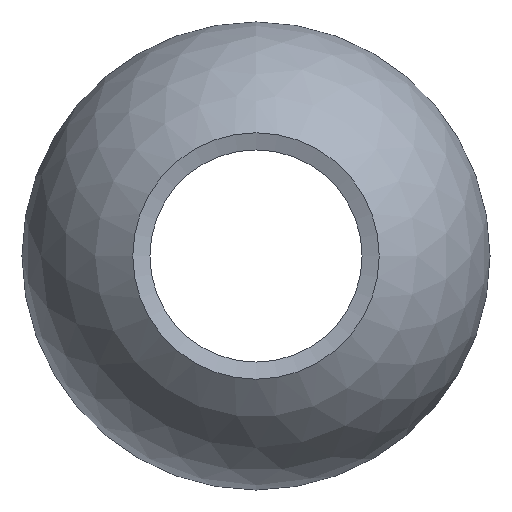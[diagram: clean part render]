
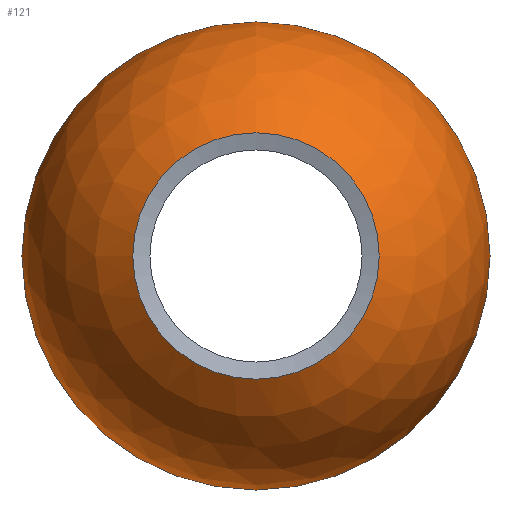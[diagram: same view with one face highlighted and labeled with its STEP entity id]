
A CAD part, front view. The second image highlights one B-rep face of the part: STEP entity #121.
In plain terms, the highlighted spherical face has radius 7.5 mm.
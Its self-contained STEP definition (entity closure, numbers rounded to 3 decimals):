
#112=SPHERICAL_SURFACE('',#198,7.5);
#121=ADVANCED_FACE('',(#132,#133),#112,.T.);
#132=FACE_BOUND('',#146,.T.);
#133=FACE_BOUND('',#147,.T.);
#146=EDGE_LOOP('',(#160));
#147=EDGE_LOOP('',(#161));
#160=ORIENTED_EDGE('',*,*,#179,.T.);
#161=ORIENTED_EDGE('',*,*,#178,.F.);
#171=VERTEX_POINT('',#243);
#172=VERTEX_POINT('',#247);
#178=EDGE_CURVE('',#171,#171,#185,.T.);
#179=EDGE_CURVE('',#172,#172,#186,.T.);
#185=CIRCLE('',#194,7.5);
#186=CIRCLE('',#197,3.949);
#194=AXIS2_PLACEMENT_3D('',#242,#214,#215);
#197=AXIS2_PLACEMENT_3D('',#246,#220,#221);
#198=AXIS2_PLACEMENT_3D('',#248,#222,#223);
#214=DIRECTION('',(0.,1.,0.));
#215=DIRECTION('',(-1.,0.,0.));
#220=DIRECTION('',(0.,1.,0.));
#221=DIRECTION('',(0.,0.,1.));
#222=DIRECTION('',(0.,1.,0.));
#223=DIRECTION('',(-1.,0.,0.));
#242=CARTESIAN_POINT('',(0.,0.,0.));
#243=CARTESIAN_POINT('',(-7.5,0.,0.));
#246=CARTESIAN_POINT('',(0.,-6.376,0.));
#247=CARTESIAN_POINT('',(0.,-6.376,3.949));
#248=CARTESIAN_POINT('',(0.,0.,0.));
